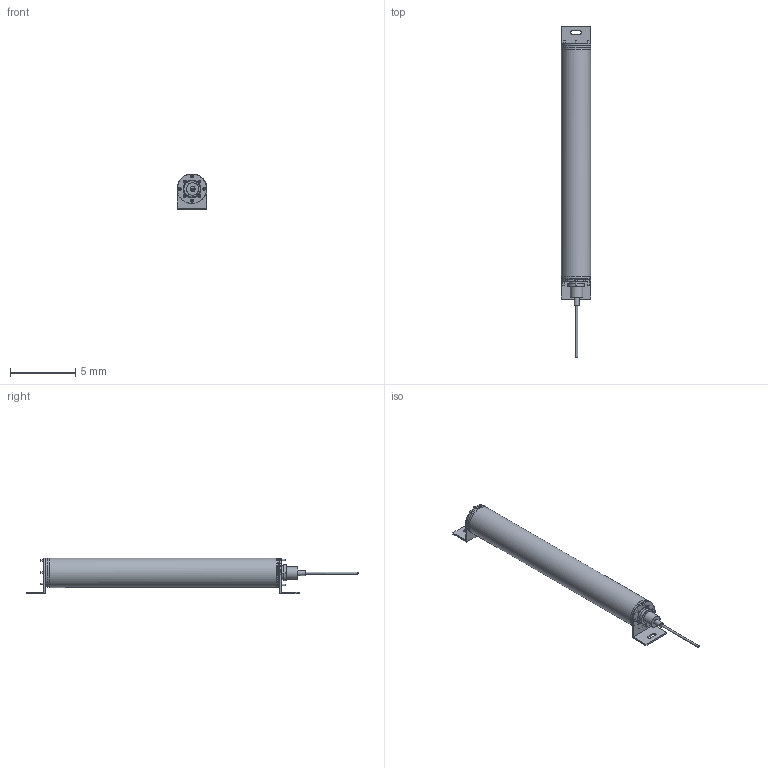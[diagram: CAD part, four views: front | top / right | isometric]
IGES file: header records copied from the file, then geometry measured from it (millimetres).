
Start section:  Autodesk DirectConnect version 7.0.27.0 ---- IGES version 5.3
Global section: file name: C:\ACADFILES\MG_PYLONS\CUSTOMER_FILES\MG-16-PYLON_3D_SMB_PT.iges; native system: Autodesk DirectConnect 7.0.27.0; preprocessor: 7.0.27.0; author: ENGINEERMAIN; organization: Unknown; date: 20150810.133136; units: millimetre
Bounding box: 2.26 x 25.44 x 2.75 mm (x, y, z)
Surface area: 571.6 mm2 (no closed solid volume)
Topology: 0 solids, 0 shells, 784 faces, 4052 edges, 4055 vertices
Faces by surface type: bspline 784
